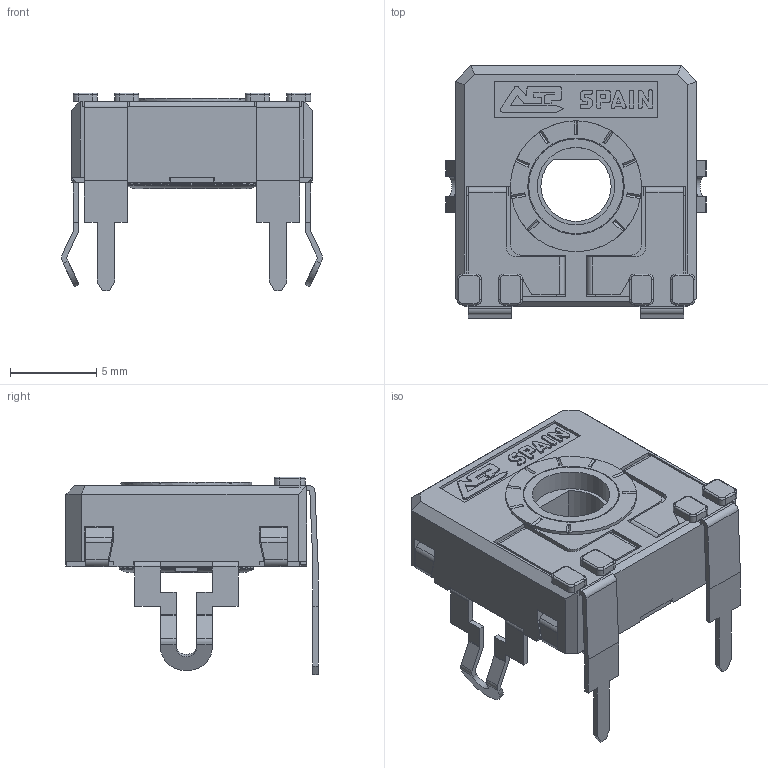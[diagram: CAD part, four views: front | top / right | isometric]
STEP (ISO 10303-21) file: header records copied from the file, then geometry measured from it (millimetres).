
FILE_DESCRIPTION(/* description */ (''),/* implementation_level */ '2;1');
FILE_NAME(/* name */ 'C:\Users\CEM\Desktop\ENVIAR\TRANSICION 3D CATALOGOS\RS14DVD7,5.stp',/* time_stamp */ '2025-12-10T10:18:51+01:00',/* author */ ('CEM'),/* organization */ (''),/* preprocessor_version */ 'ST-DEVELOPER v16.13',/* originating_system */ 'Autodesk Inventor 2018',/* authorisation */ '');
FILE_SCHEMA (('AUTOMOTIVE_DESIGN { 1 0 10303 214 3 1 1 }'));
Length unit declared in the file: millimetre
Products named in the file (1): CARCASA CA14 PGA
Bounding box: 15.16 x 14.65 x 11.5 mm (x, y, z)
Volume: 530.1 mm3; surface area: 1536.4 mm2
Topology: 1 solids, 1 shells, 727 faces, 2058 edges, 1324 vertices
Faces by surface type: plane 530, cylinder 160, torus 23, bspline 8, cone 6
Full cylindrical faces by diameter (mm): 4.5 x1, 5.5 x1, 5.6 x1, 5.752 x1, 6.8 x1, 7.6 x1
Entity records: 23683 total; most frequent: CARTESIAN_POINT 4304, ORIENTED_EDGE 4088, DIRECTION 3866, EDGE_CURVE 2044, LINE 1606, VECTOR 1606, VERTEX_POINT 1320, AXIS2_PLACEMENT_3D 1130
